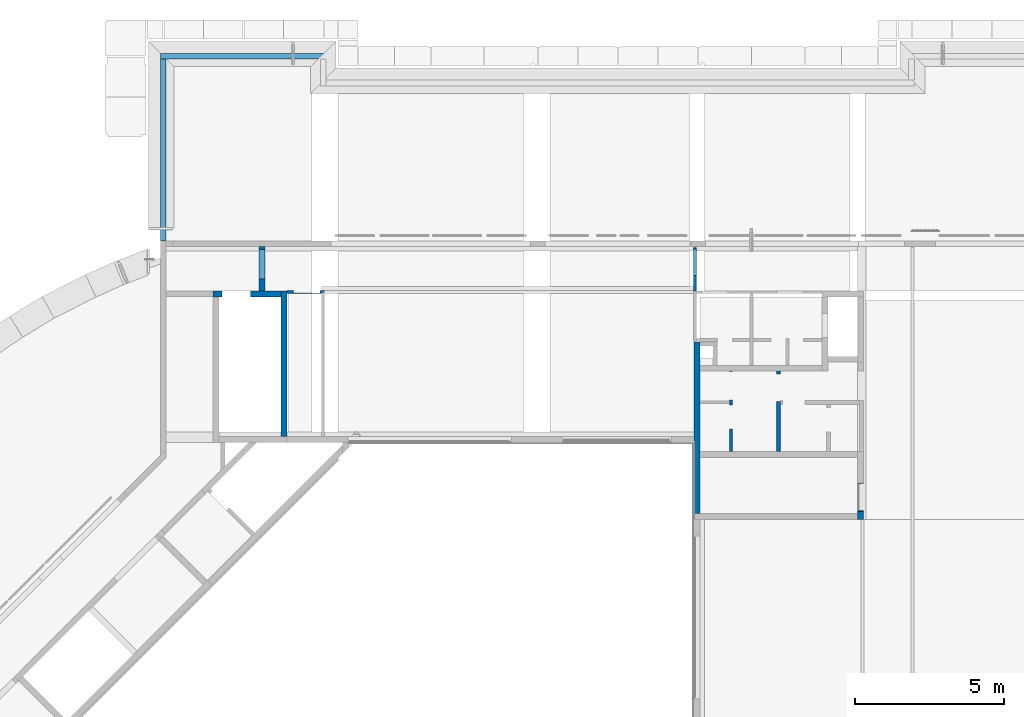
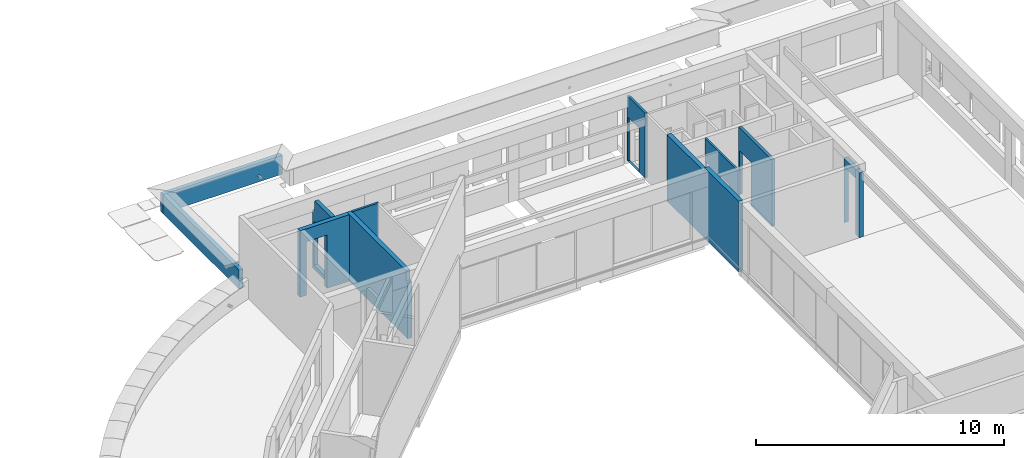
# One storey, part 26 of 38: 12 walls.
"""IFC4X3_ADD2 building model written with IfcOpenShell, lengths in millimetres."""

from ifc_helpers import new_model, si_unit, direction, frame, origin_with_axes, place, context, subcontext, project, spatial, faceted_brep, polygons, source, transform, mapped, type_object, type_shapes, element, save


model = new_model("IFC4X3_ADD2")

# Units and contexts
model_context = context("Model", 3, precision=1e-05, world=origin_with_axes(), true_north=direction((0.0, 1.0)))
body_context = subcontext(model_context, "Body", "Model", "MODEL_VIEW")
ifc_project = project(units=[si_unit("LENGTHUNIT", "METRE", prefix="MILLI"), si_unit("AREAUNIT", "SQUARE_METRE"), si_unit("VOLUMEUNIT", "CUBIC_METRE"), si_unit("PLANEANGLEUNIT", "RADIAN"), si_unit("TIMEUNIT", "SECOND"), si_unit("MASSUNIT", "GRAM")], contexts=[model_context])

# Site, building, storey
site_placement = place(None, origin_with_axes())
site = spatial("IfcSite", under=ifc_project, at=site_placement, Name="Site", CompositionType="ELEMENT")
building_placement = place(site_placement, origin_with_axes())
building = spatial("IfcBuilding", under=site, at=building_placement, Name="IFC Building Story")
storey_placement = place(building_placement, frame((0.0, 0.0, 10800.0), z_axis=(0.0, 0.0, 1.0), x_axis=(1.0, 0.0, 0.0)))
storey = spatial("IfcBuildingStorey", under=building, at=storey_placement, Name="030", Elevation=10800.0)

# Walls
wall_type_1 = type_object("IfcWallType", Name="Basic Wall_BB_10.01.41#01_Gipskartonwand_MS100 _ 25.50.25_ 100 mm137", PredefinedType="NOTDEFINED")
shared_shape_1 = source(origin_with_axes(), body_context, "Body", "Tessellation", [
    polygons([(0.0, 49.9999999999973, -2.16573425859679e-12), (209.999999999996, 49.9999999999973, -2.16573425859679e-12), (209.999999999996, 37.5000000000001, -2.16573425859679e-12), (0.0, 37.5000000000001, -2.16573425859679e-12), (1250.0, 49.9999999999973, 3195.0), (0.0, 49.9999999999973, 3195.0), (0.0, 37.5000000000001, 3195.0), (1250.0, 37.5000000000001, 3195.0), (1250.0, 49.9999999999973, -2.16573425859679e-12), (1250.0, 37.5000000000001, -2.16573425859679e-12), (209.999999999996, 49.9999999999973, 2165.0), (1100.0, 49.9999999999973, 2165.0), (1100.0, 37.5000000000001, 2165.0), (209.999999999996, 37.5000000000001, 2165.0), (1100.0, 49.9999999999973, -2.16573425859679e-12), (1100.0, 37.5000000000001, -2.16573425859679e-12)], [[[1, 2, 3, 4]], [[5, 6, 7, 8]], [[6, 1, 4, 7]], [[9, 5, 8, 10]], [[11, 12, 13, 14]], [[12, 15, 16, 13]], [[2, 11, 14, 3]], [[13, 16, 10]], [[13, 10, 8]], [[8, 7, 14]], [[8, 14, 13]], [[7, 4, 3]], [[7, 3, 14]], [[15, 9, 10, 16]], [[11, 2, 1]], [[11, 1, 6]], [[6, 5, 12]], [[6, 12, 11]], [[5, 9, 15]], [[5, 15, 12]]]),
    polygons([(0.0, 25.000000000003, -2.16573425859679e-12), (0.0, 37.5000000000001, -2.16573425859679e-12), (209.999999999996, 37.5000000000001, -2.16573425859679e-12), (209.999999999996, 25.000000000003, -2.16573425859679e-12), (1237.5, 25.000000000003, 3195.0), (1237.5, 37.5000000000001, 3195.0), (0.0, 37.5000000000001, 3195.0), (0.0, 25.000000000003, 3195.0), (209.999999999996, 25.000000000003, 2165.0), (209.999999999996, 37.5000000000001, 2165.0), (1100.0, 37.5000000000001, 2165.0), (1100.0, 25.000000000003, 2165.0), (1100.0, 37.5000000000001, -2.16573425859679e-12), (1100.0, 25.000000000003, -2.16573425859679e-12), (1237.5, 37.5000000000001, -2.16573425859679e-12), (1237.5, 25.000000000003, -2.16573425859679e-12)], [[[1, 2, 3, 4]], [[5, 6, 7, 8]], [[2, 1, 8, 7]], [[9, 10, 11, 12]], [[13, 14, 12, 11]], [[4, 3, 10, 9]], [[10, 3, 2]], [[10, 2, 7]], [[7, 6, 11]], [[7, 11, 10]], [[6, 15, 13]], [[6, 13, 11]], [[12, 14, 16]], [[12, 16, 5]], [[5, 8, 9]], [[5, 9, 12]], [[8, 1, 4]], [[8, 4, 9]], [[14, 13, 15, 16]], [[16, 15, 6, 5]]]),
    polygons([(0.0, -25.000000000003, -2.16573425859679e-12), (0.0, 25.000000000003, -2.16573425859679e-12), (209.999999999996, 25.000000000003, -2.16573425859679e-12), (209.999999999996, -25.000000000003, -2.16573425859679e-12), (1225.0, -25.000000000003, 3195.0), (1225.0, 25.000000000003, 3195.0), (0.0, 25.000000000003, 3195.0), (0.0, -25.000000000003, 3195.0), (209.999999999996, -25.000000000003, 2165.0), (209.999999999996, 25.000000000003, 2165.0), (1100.0, 25.000000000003, 2165.0), (1100.0, -25.000000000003, 2165.0), (1100.0, 25.000000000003, -2.16573425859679e-12), (1100.0, -25.000000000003, -2.16573425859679e-12), (1225.0, 25.000000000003, -2.16573425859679e-12), (1225.0, -25.000000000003, -2.16573425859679e-12)], [[[1, 2, 3, 4]], [[5, 6, 7, 8]], [[2, 1, 8, 7]], [[9, 10, 11, 12]], [[13, 14, 12, 11]], [[4, 3, 10, 9]], [[10, 3, 2]], [[10, 2, 7]], [[7, 6, 11]], [[7, 11, 10]], [[6, 15, 13]], [[6, 13, 11]], [[12, 14, 16]], [[12, 16, 5]], [[5, 8, 9]], [[5, 9, 12]], [[8, 1, 4]], [[8, 4, 9]], [[14, 13, 15, 16]], [[16, 15, 6, 5]]]),
    polygons([(0.0, -37.5000000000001, -2.16573425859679e-12), (0.0, -25.000000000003, -2.16573425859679e-12), (209.999999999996, -25.000000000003, -2.16573425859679e-12), (209.999999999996, -37.5000000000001, -2.16573425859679e-12), (1175.0, -37.5000000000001, 3195.0), (1175.0, -25.000000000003, 3195.0), (0.0, -25.000000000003, 3195.0), (0.0, -37.5000000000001, 3195.0), (209.999999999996, -37.5000000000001, 2165.0), (209.999999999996, -25.000000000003, 2165.0), (1100.0, -25.000000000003, 2165.0), (1100.0, -37.5000000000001, 2165.0), (1100.0, -25.000000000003, -2.16573425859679e-12), (1100.0, -37.5000000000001, -2.16573425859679e-12), (1175.0, -25.000000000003, -2.16573425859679e-12), (1175.0, -37.5000000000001, -2.16573425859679e-12)], [[[1, 2, 3, 4]], [[5, 6, 7, 8]], [[2, 1, 8, 7]], [[9, 10, 11, 12]], [[13, 14, 12, 11]], [[4, 3, 10, 9]], [[10, 3, 2]], [[10, 2, 7]], [[7, 6, 11]], [[7, 11, 10]], [[11, 6, 15]], [[15, 13, 11]], [[12, 14, 16]], [[16, 5, 12]], [[5, 8, 9]], [[5, 9, 12]], [[8, 1, 4]], [[8, 4, 9]], [[14, 13, 15, 16]], [[16, 15, 6, 5]]]),
    polygons([(209.999999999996, -37.5000000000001, -2.16573425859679e-12), (0.0, -37.5000000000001, -2.16573425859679e-12), (0.0, -37.5000000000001, 3195.0), (1162.5, -37.5000000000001, 3195.0), (1162.5, -37.5000000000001, -2.16573425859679e-12), (1100.0, -37.5000000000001, -2.16573425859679e-12), (1100.0, -37.5000000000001, 2165.0), (209.999999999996, -37.5000000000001, 2165.0), (0.0, -50.000000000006, -2.16573425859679e-12), (1162.5, -50.000000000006, -2.16573425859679e-12), (1162.5, -50.000000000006, 3195.0), (1150.0, -50.000000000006, 3195.0), (0.0, -50.000000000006, 3195.0), (209.999999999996, -39.9999999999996, -2.16573425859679e-12), (1100.0, -39.9999999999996, -2.16573425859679e-12), (209.999999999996, -39.9999999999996, 2165.0), (1100.0, -39.9999999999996, 2165.0)], [[[8, 1, 2]], [[8, 2, 3]], [[3, 4, 7]], [[3, 7, 8]], [[7, 4, 5]], [[5, 6, 7]], [[12, 13, 9]], [[12, 9, 10]], [[10, 11, 12]], [[15, 6, 5]], [[15, 5, 10]], [[10, 14, 15]], [[10, 9, 14]], [[9, 2, 14]], [[2, 1, 14]], [[12, 11, 4]], [[4, 3, 13]], [[4, 13, 12]], [[9, 13, 3, 2]], [[15, 14, 16, 17]], [[17, 16, 8, 7]], [[15, 17, 7, 6]], [[16, 14, 1, 8]], [[11, 10, 5, 4]]]),
])
type_shapes(wall_type_1, [shared_shape_1])
wall_1_placement = place(storey_placement, frame((-26400.0, 43665.0, -5.0), z_axis=(0.0, 0.0, 1.0), x_axis=(1.0, 0.0, 0.0)))
element("IfcWall", 1, at=wall_1_placement, inside=storey, type_object=wall_type_1, Name="Basic Wall:BB_10.01.41#01_Gipskartonwand_MS100 / 25.50.25, 100 mm", ObjectType="Basic Wall:BB_10.01.41#01_Gipskartonwand_MS100 / 25.50.25, 100 mm", PredefinedType="PARTITIONING", context=body_context, shape_type="MappedRepresentation", body=[
    mapped(shared_shape_1, transform((0.0, 0.0, 0.0))),
])
wall_type_2 = type_object("IfcWallType", Name="Basic Wall_BB_10.01.41#01_Gipskartonwand_MS100 _ 25.50.25_ 100 mm149", PredefinedType="NOTDEFINED")
shared_shape_2 = source(origin_with_axes(), body_context, "Body", "Brep", [
    faceted_brep([(0.0, 37.5000000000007, 0.0), (0.0, 37.5000000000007, 3200.0), (0.0, 50.0, 3200.0), (0.0, 50.0, 0.0), (1460.000000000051, 37.5000000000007, 3200.0), (1460.000000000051, 50.0, 3200.0), (1460.000000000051, 37.5000000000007, 0.0), (1460.000000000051, 50.0, 0.0), (508.000000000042, 37.5000000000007, 2170.000000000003), (508.000000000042, 37.5000000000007, 10.0), (508.000000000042, 50.0, 10.0), (508.000000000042, 50.0, 2170.000000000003), (1398.000000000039, 37.5000000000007, 10.0), (1398.000000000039, 50.0, 10.0), (1398.000000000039, 37.5000000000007, 2170.000000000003), (1398.000000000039, 50.0, 2170.000000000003)], [[[0, 1, 2, 3]], [[1, 4, 5, 2]], [[4, 6, 7, 5]], [[6, 0, 3, 7]], [[8, 9, 10, 11]], [[9, 12, 13, 10]], [[12, 14, 15, 13]], [[14, 8, 11, 15]], [[9, 8, 14, 12], [1, 0, 6, 4]], [[15, 11, 10, 13], [7, 3, 2, 5]]], outer=[[True], [True], [True], [True], [True], [True], [True], [True], [False, True], [False, True]]),
    faceted_brep([(0.0, 24.9999999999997, 0.0), (0.0, 24.9999999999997, 3200.0), (0.0, 37.5000000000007, 3200.0), (0.0, 37.5000000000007, 0.0), (1460.000000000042, 25.0000000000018, 3200.0), (1460.000000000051, 37.5000000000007, 3200.0), (1460.000000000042, 25.0000000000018, 0.0), (1460.000000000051, 37.5000000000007, 0.0), (508.0000000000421, 25.0000000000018, 2170.000000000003), (508.00000000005, 25.0000000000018, 10.0), (508.000000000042, 37.5000000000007, 10.0), (508.000000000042, 37.5000000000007, 2170.000000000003), (1398.000000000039, 25.0000000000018, 10.0), (1398.000000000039, 37.5000000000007, 10.0), (1398.000000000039, 25.0000000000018, 2170.000000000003), (1398.000000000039, 37.5000000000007, 2170.000000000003)], [[[0, 1, 2, 3]], [[1, 4, 5, 2]], [[4, 6, 7, 5]], [[6, 0, 3, 7]], [[8, 9, 10, 11]], [[9, 12, 13, 10]], [[12, 14, 15, 13]], [[14, 8, 11, 15]], [[9, 8, 14, 12], [1, 0, 6, 4]], [[15, 11, 10, 13], [7, 3, 2, 5]]], outer=[[True], [True], [True], [True], [True], [True], [True], [True], [False, True], [False, True]]),
    faceted_brep([(0.0, -24.9999999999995, 0.0), (0.0, -24.9999999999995, 3200.0), (0.0, 24.9999999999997, 3200.0), (0.0, 24.9999999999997, 0.0), (1460.000000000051, -25.0000000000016, 3200.0), (1460.000000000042, 25.0000000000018, 3200.0), (1460.000000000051, -25.0000000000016, 0.0), (1460.000000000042, 25.0000000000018, 0.0), (508.0000000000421, -25.0000000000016, 2170.000000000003), (508.00000000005, -25.0000000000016, 10.0), (508.00000000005, 25.0000000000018, 10.0), (508.0000000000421, 25.0000000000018, 2170.000000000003), (1398.000000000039, -25.0000000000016, 10.0), (1398.000000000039, 25.0000000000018, 10.0), (1398.000000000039, -25.0000000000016, 2170.000000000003), (1398.000000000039, 25.0000000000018, 2170.000000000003)], [[[0, 1, 2, 3]], [[1, 4, 5, 2]], [[4, 6, 7, 5]], [[6, 0, 3, 7]], [[8, 9, 10, 11]], [[9, 12, 13, 10]], [[12, 14, 15, 13]], [[14, 8, 11, 15]], [[9, 8, 14, 12], [1, 0, 6, 4]], [[15, 11, 10, 13], [7, 3, 2, 5]]], outer=[[True], [True], [True], [True], [True], [True], [True], [True], [False, True], [False, True]]),
    faceted_brep([(0.0, -37.5000000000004, 0.0), (0.0, -37.5000000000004, 3200.0), (0.0, -24.9999999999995, 3200.0), (0.0, -24.9999999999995, 0.0), (1460.000000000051, -37.5000000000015, 3200.0), (1460.000000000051, -25.0000000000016, 3200.0), (1460.000000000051, -37.5000000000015, 0.0), (1460.000000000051, -25.0000000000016, 0.0), (508.00000000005, -37.5000000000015, 2170.000000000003), (508.00000000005, -37.5000000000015, 10.0), (508.00000000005, -25.0000000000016, 10.0), (508.0000000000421, -25.0000000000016, 2170.000000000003), (1398.000000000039, -37.5000000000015, 10.0), (1398.000000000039, -25.0000000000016, 10.0), (1398.000000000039, -37.5000000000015, 2170.000000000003), (1398.000000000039, -25.0000000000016, 2170.000000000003)], [[[0, 1, 2, 3]], [[1, 4, 5, 2]], [[4, 6, 7, 5]], [[6, 0, 3, 7]], [[8, 9, 10, 11]], [[9, 12, 13, 10]], [[12, 14, 15, 13]], [[14, 8, 11, 15]], [[9, 8, 14, 12], [1, 0, 6, 4]], [[15, 11, 10, 13], [7, 3, 2, 5]]], outer=[[True], [True], [True], [True], [True], [True], [True], [True], [False, True], [False, True]]),
    faceted_brep([(0.0, -50.0, 0.0), (0.0, -50.0, 3200.0), (0.0, -37.5000000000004, 3200.0), (0.0, -37.5000000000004, 0.0), (1460.000000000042, -49.9999999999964, 3200.0), (1460.000000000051, -37.5000000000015, 3200.0), (1460.000000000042, -49.9999999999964, 0.0), (1460.000000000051, -37.5000000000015, 0.0), (508.00000000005, -49.9999999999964, 2170.000000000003), (508.00000000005, -49.9999999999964, 10.0), (508.00000000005, -37.5000000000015, 10.0), (508.00000000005, -37.5000000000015, 2170.000000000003), (1398.000000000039, -49.9999999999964, 10.0), (1398.000000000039, -37.5000000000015, 10.0), (1398.000000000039, -49.9999999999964, 2170.000000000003), (1398.000000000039, -37.5000000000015, 2170.000000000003)], [[[0, 1, 2, 3]], [[1, 4, 5, 2]], [[4, 6, 7, 5]], [[6, 0, 3, 7]], [[8, 9, 10, 11]], [[9, 12, 13, 10]], [[12, 14, 15, 13]], [[14, 8, 11, 15]], [[9, 8, 14, 12], [1, 0, 6, 4]], [[15, 11, 10, 13], [7, 3, 2, 5]]], outer=[[True], [True], [True], [True], [True], [True], [True], [True], [False, True], [False, True]]),
])
type_shapes(wall_type_2, [shared_shape_2])
wall_2_placement = place(storey_placement, frame((-12665.0040658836, 43705.0, -10.0), z_axis=(0.0, 0.0, 1.0), x_axis=(0.0, 1.0, 0.0)))
element("IfcWall", 2, at=wall_2_placement, inside=storey, type_object=wall_type_2, Name="Basic Wall:BB_10.01.41#01_Gipskartonwand_MS100 / 25.50.25, 100 mm", ObjectType="Basic Wall:BB_10.01.41#01_Gipskartonwand_MS100 / 25.50.25, 100 mm", PredefinedType="PARTITIONING", context=body_context, shape_type="MappedRepresentation", body=[
    mapped(shared_shape_2, transform((0.0, 0.0, 0.0))),
])
wall_3_placement = place(storey_placement, frame((0.0, 0.0, -10800.0), z_axis=(0.0, 0.0, 1.0), x_axis=(1.0, 0.0, 0.0)))
element("IfcWall", 3, at=wall_3_placement, inside=storey, Name="Basic Wall:BB_XX_Wand uit beton, 200 mm", ObjectType="Basic Wall:BB_XX_Wand uit beton, 200 mm", PredefinedType="SOLIDWALL", context=body_context, shape_type="Tessellation", body=[
    polygons([(-12500.0040658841, 36200.0, 10720.0), (-12500.0040658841, 38099.99999999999, 10720.0), (-12500.0040658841, 38299.99999999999, 10720.0), (-12500.0040658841, 39909.99999999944, 10720.0), (-12500.0040658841, 39999.99999999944, 10720.0), (-12500.0040658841, 41979.99999999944, 10720.0), (-12500.0040658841, 41979.99999999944, 13990.0), (-12500.0040658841, 39999.99999999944, 13990.0), (-12500.0040658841, 39909.99999999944, 13990.0), (-12500.0040658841, 38939.99593411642, 13990.0), (-12500.0040658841, 38939.99593411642, 14200.0), (-12500.0040658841, 38299.99999999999, 14200.0), (-12500.0040658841, 38099.99999999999, 14200.0), (-12500.0040658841, 36200.0, 14200.0), (-12700.0040658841, 36200.0, 10720.0), (-12700.0040658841, 36200.0, 14200.0), (-12700.0040658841, 38939.99593411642, 14200.0), (-12700.0040658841, 38939.99593411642, 13990.0), (-12700.0040658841, 41979.99999999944, 13990.0), (-12700.0040658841, 41979.99999999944, 10720.0)], [[[5, 6, 7]], [[5, 7, 8]], [[8, 9, 4]], [[8, 4, 5]], [[10, 11, 12]], [[10, 12, 3]], [[3, 4, 9]], [[3, 9, 10]], [[12, 13, 2]], [[12, 2, 3]], [[13, 14, 1]], [[13, 1, 2]], [[18, 19, 20]], [[18, 20, 15]], [[15, 16, 18]], [[16, 17, 18]], [[1, 14, 16, 15]], [[2, 1, 15]], [[15, 3, 2]], [[15, 4, 3]], [[15, 20, 4]], [[20, 5, 4]], [[20, 6, 5]], [[7, 6, 20, 19]], [[8, 7, 19]], [[8, 19, 18]], [[18, 9, 8]], [[18, 10, 9]], [[11, 10, 18, 17]], [[12, 11, 17]], [[17, 13, 12]], [[17, 16, 14]], [[17, 14, 13]]]),
])
wall_4_placement = place(storey_placement, frame((0.0, 0.0, -10800.0), z_axis=(0.0, 0.0, 1.0), x_axis=(1.0, 0.0, 0.0)))
element("IfcWall", 4, at=wall_4_placement, inside=storey, Name="Basic Wall:BB_XX_Wand uit metselwerk, 200 mm", ObjectType="Basic Wall:BB_XX_Wand uit metselwerk, 200 mm", PredefinedType="SOLIDWALL", context=body_context, shape_type="Tessellation", body=[
    polygons([(-7000.0, 37235.00015858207, 10600.0), (-7000.0, 37235.00015858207, 13790.00000000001), (-7000.0, 36275.000158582, 13790.00000000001), (-7000.0, 36275.000158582, 10600.0), (-7000.0, 36305.00000000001, 10600.0), (-7000.0, 36305.00000000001, 13350.00000000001), (-7000.000000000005, 37215.00000000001, 13350.00000000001), (-7000.0, 37215.00000000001, 10600.0), (-7200.0, 37235.00015858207, 13790.00000000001), (-7200.0, 37235.00015858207, 10600.0), (-7200.0, 37215.00000000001, 10600.0), (-7200.000000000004, 37215.00000000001, 13350.00000000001), (-7200.0, 36305.00000000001, 13350.00000000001), (-7200.0, 36305.00000000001, 10600.0), (-7200.0, 36275.000158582, 10600.0), (-7200.0, 36275.000158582, 13790.00000000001)], [[[7, 8, 1]], [[1, 2, 7]], [[2, 3, 6]], [[2, 6, 7]], [[6, 3, 4]], [[4, 5, 6]], [[13, 14, 15]], [[15, 16, 13]], [[16, 9, 12]], [[16, 12, 13]], [[12, 9, 10]], [[10, 11, 12]], [[4, 15, 14, 5]], [[2, 1, 10, 9]], [[3, 2, 9, 16]], [[4, 3, 16, 15]], [[6, 13, 12, 7]], [[13, 6, 5, 14]], [[7, 12, 11, 8]], [[10, 1, 8, 11]]]),
])
wall_5_placement = place(storey_placement, frame((0.0, 0.0, -10800.0), z_axis=(0.0, 0.0, 1.0), x_axis=(1.0, 0.0, 0.0)))
element("IfcWall", 5, at=wall_5_placement, inside=storey, Name="Basic Wall:BB_XX_Wand uit beton, 200 mm", ObjectType="Basic Wall:BB_XX_Wand uit beton, 200 mm", PredefinedType="SOLIDWALL", context=body_context, shape_type="Tessellation", body=[
    polygons([(-7000.0, 35999.99999999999, 10600.0), (-7000.0, 36275.00015858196, 10600.0), (-7000.0, 36275.00015858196, 13790.00000000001), (-7000.0, 35999.99999999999, 13790.00000000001), (-7200.0, 36275.00015858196, 10600.0), (-7200.0, 36200.0, 10600.0), (-7200.0, 35999.99999999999, 10600.0), (-7200.0, 35999.99999999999, 13790.00000000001), (-7200.0, 36275.00015858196, 13790.00000000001)], [[[1, 2, 3, 4]], [[6, 7, 8]], [[6, 8, 9]], [[9, 5, 6]], [[6, 5, 2]], [[2, 1, 7]], [[2, 7, 6]], [[2, 5, 9, 3]], [[4, 3, 9, 8]], [[7, 1, 4, 8]]]),
])
wall_6_placement = place(storey_placement, frame((0.0, 0.0, -10800.0), z_axis=(0.0, 0.0, 1.0), x_axis=(1.0, 0.0, 0.0)))
element("IfcWall", 6, at=wall_6_placement, inside=storey, Name="Basic Wall:BB_XX_Wand uit beton, 200 mm", ObjectType="Basic Wall:BB_XX_Wand uit beton, 200 mm", PredefinedType="SOLIDWALL", context=body_context, shape_type="Tessellation", body=[
    polygons([(-26600.0, 43700.0, 10720.0), (-26600.0, 43500.0, 10720.0), (-26600.00000000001, 38799.99593411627, 10720.0), (-26600.00000000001, 38799.99593411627, 13479.99999999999), (-26600.00000000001, 38944.99593411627, 13479.99999999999), (-26600.00000000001, 38944.99593411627, 13990.0), (-26600.0, 43500.0, 13990.0), (-26600.0, 43700.0, 13990.0), (-26400.0, 38799.99593411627, 10720.0), (-26400.0, 43700.0, 10720.0), (-26400.0, 43700.0, 13990.0), (-26400.0, 38944.99593411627, 13990.0), (-26400.0, 38944.99593411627, 13479.99999999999), (-26400.0, 38799.99593411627, 13479.99999999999)], [[[5, 6, 7]], [[7, 2, 3]], [[7, 3, 5]], [[3, 4, 5]], [[7, 8, 1]], [[7, 1, 2]], [[13, 14, 9]], [[13, 9, 10]], [[13, 10, 11]], [[11, 12, 13]], [[5, 13, 12, 6]], [[13, 5, 4, 14]], [[2, 1, 10]], [[10, 9, 3]], [[10, 3, 2]], [[3, 9, 14, 4]], [[7, 6, 12]], [[7, 12, 11]], [[11, 8, 7]], [[1, 8, 11, 10]]]),
])
wall_7_placement = place(storey_placement, frame((0.0, 0.0, -10800.0), z_axis=(0.0, 0.0, 1.0), x_axis=(1.0, 0.0, 0.0)))
element("IfcWall", 7, at=wall_7_placement, inside=storey, Name="Basic Wall:BB_XX_Wand uit beton, 190 mm", ObjectType="Basic Wall:BB_XX_Wand uit beton, 190 mm", PredefinedType="SOLIDWALL", context=body_context, shape_type="Tessellation", body=[
    polygons([(-30660.0, 51505.0, 10600.0), (-30660.0, 45380.0000000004, 10600.0), (-30660.0, 45380.0000000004, 11541.0), (-30660.0, 45758.00000000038, 11541.0), (-30660.0, 45758.00000000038, 11537.99999999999), (-30660.0, 45830.00000000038, 11537.99999999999), (-30660.0, 45830.00000000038, 11541.0), (-30660.0, 51505.0, 11541.0), (-30660.0, 51505.0, 11540.0), (-30470.0, 45380.0000000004, 10600.0), (-30470.0, 51505.0, 10600.0), (-30470.0, 51505.0, 11541.0), (-30470.0, 45830.00000000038, 11541.0), (-30470.0, 45830.00000000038, 11537.99999999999), (-30470.0, 45758.00000000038, 11537.99999999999), (-30470.0, 45758.00000000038, 11541.0), (-30470.0, 45380.0000000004, 11541.0)], [[[6, 7, 8]], [[6, 8, 9]], [[6, 9, 1]], [[6, 1, 2]], [[2, 5, 6]], [[2, 3, 5]], [[3, 4, 5]], [[15, 16, 17]], [[15, 17, 10]], [[10, 14, 15]], [[10, 11, 12]], [[10, 12, 14]], [[12, 13, 14]], [[2, 1, 11, 10]], [[3, 2, 10, 17]], [[3, 17, 16, 4]], [[9, 8, 12]], [[12, 11, 1]], [[12, 1, 9]], [[15, 5, 4, 16]], [[5, 15, 14, 6]], [[6, 14, 13, 7]], [[12, 8, 7, 13]]]),
])
wall_8_placement = place(storey_placement, frame((0.0, 0.0, -10800.0), z_axis=(0.0, 0.0, 1.0), x_axis=(1.0, 0.0, 0.0)))
element("IfcWall", 8, at=wall_8_placement, inside=storey, Name="Basic Wall:BB_XX_Wand uit beton, 190 mm", ObjectType="Basic Wall:BB_XX_Wand uit beton, 190 mm", PredefinedType="SOLIDWALL", context=body_context, shape_type="Tessellation", body=[
    polygons([(-30660.0, 51504.99999999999, 11540.0), (-30660.0, 51504.99999999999, 10600.0), (-30470.0, 51504.99999999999, 10600.0), (-25100.13019323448, 51504.99999999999, 10600.0), (-25100.13019323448, 51504.99999999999, 11540.0), (-26251.42589328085, 51504.99999999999, 10930.40723148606), (-26245.2641125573, 51504.99999999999, 10942.15771057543), (-26236.47174613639, 51504.99999999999, 10952.09085196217), (-26225.55977439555, 51504.99999999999, 10959.62937757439), (-26213.16236146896, 51504.99999999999, 10964.33517570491), (-26199.99999993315, 51504.99999999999, 10965.93476247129), (-26186.83763839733, 51504.99999999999, 10964.33517570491), (-26174.44022547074, 51504.99999999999, 10959.62937757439), (-26163.5282537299, 51504.99999999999, 10952.09085196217), (-26154.735887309, 51504.99999999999, 10942.15771057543), (-26148.57410658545, 51504.99999999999, 10930.40723148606), (-26145.40101185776, 51504.99999999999, 10917.52230982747), (-26145.40101185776, 51504.99999999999, 10904.25177041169), (-26148.57410658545, 51504.99999999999, 10891.3668487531), (-26154.735887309, 51504.99999999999, 10879.61636966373), (-26163.5282537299, 51504.99999999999, 10869.68322827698), (-26174.44022547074, 51504.99999999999, 10862.14470266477), (-26186.83763839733, 51504.99999999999, 10857.43890453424), (-26199.99999993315, 51504.99999999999, 10855.83931776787), (-26213.16236146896, 51504.99999999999, 10857.43890453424), (-26225.55977439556, 51504.99999999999, 10862.14470266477), (-26236.47174613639, 51504.99999999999, 10869.68322827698), (-26245.2641125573, 51504.99999999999, 10879.61636966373), (-26251.42589328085, 51504.99999999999, 10891.3668487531), (-26254.59898800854, 51504.99999999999, 10904.25177041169), (-26254.59898800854, 51504.99999999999, 10917.52230982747), (-25100.13019323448, 51694.99999999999, 10600.0), (-30660.0, 51694.99999999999, 10600.0), (-30660.0, 51694.99999999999, 11540.0), (-25100.13019323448, 51694.99999999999, 11540.0), (-26148.57410658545, 51694.99999999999, 10883.45018208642), (-26145.40101185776, 51694.99999999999, 10896.335103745), (-26145.40101185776, 51694.99999999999, 10909.60564316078), (-26148.57410658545, 51694.99999999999, 10922.49056481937), (-26154.735887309, 51694.99999999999, 10934.24104390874), (-26163.5282537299, 51694.99999999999, 10944.17418529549), (-26174.44022547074, 51694.99999999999, 10951.7127109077), (-26186.83763839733, 51694.99999999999, 10956.41850903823), (-26199.99999993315, 51694.99999999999, 10958.0180958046), (-26213.16236146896, 51694.99999999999, 10956.41850903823), (-26225.55977439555, 51694.99999999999, 10951.7127109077), (-26236.47174613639, 51694.99999999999, 10944.17418529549), (-26245.2641125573, 51694.99999999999, 10934.24104390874), (-26251.42589328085, 51694.99999999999, 10922.49056481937), (-26254.59898800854, 51694.99999999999, 10909.60564316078), (-26254.59898800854, 51694.99999999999, 10896.335103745), (-26251.42589328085, 51694.99999999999, 10883.45018208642), (-26245.2641125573, 51694.99999999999, 10871.69970299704), (-26236.47174613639, 51694.99999999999, 10861.7665616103), (-26225.55977439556, 51694.99999999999, 10854.22803599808), (-26213.16236146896, 51694.99999999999, 10849.52223786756), (-26199.99999993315, 51694.99999999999, 10847.92265110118), (-26186.83763839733, 51694.99999999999, 10849.52223786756), (-26174.44022547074, 51694.99999999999, 10854.22803599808), (-26163.5282537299, 51694.99999999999, 10861.7665616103), (-26154.735887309, 51694.99999999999, 10871.69970299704)], [[[31, 6, 1]], [[31, 1, 3]], [[3, 30, 31]], [[3, 29, 30]], [[3, 28, 29]], [[3, 27, 28]], [[3, 26, 27]], [[3, 25, 26]], [[3, 4, 25]], [[4, 24, 25]], [[4, 23, 24]], [[4, 22, 23]], [[4, 21, 22]], [[4, 20, 21]], [[4, 19, 20]], [[4, 18, 19]], [[4, 17, 18]], [[4, 16, 17]], [[4, 5, 15]], [[4, 15, 16]], [[5, 14, 15]], [[5, 13, 14]], [[5, 12, 13]], [[5, 11, 12]], [[5, 10, 11]], [[5, 9, 10]], [[9, 5, 1]], [[1, 8, 9]], [[1, 7, 8]], [[1, 6, 7]], [[1, 2, 3]], [[61, 36, 32]], [[32, 60, 61]], [[32, 59, 60]], [[32, 58, 59]], [[32, 57, 58]], [[32, 56, 57]], [[56, 32, 33]], [[33, 55, 56]], [[33, 54, 55]], [[33, 53, 54]], [[33, 52, 53]], [[33, 51, 52]], [[33, 50, 51]], [[33, 34, 49]], [[33, 49, 50]], [[34, 48, 49]], [[34, 47, 48]], [[34, 46, 47]], [[34, 35, 46]], [[35, 45, 46]], [[35, 44, 45]], [[35, 43, 44]], [[35, 42, 43]], [[35, 41, 42]], [[35, 40, 41]], [[35, 32, 39]], [[35, 39, 40]], [[32, 38, 39]], [[32, 37, 38]], [[32, 36, 37]], [[3, 2, 33]], [[33, 32, 4]], [[33, 4, 3]], [[5, 4, 32, 35]], [[31, 30, 51, 50]], [[1, 5, 35, 34]], [[34, 33, 2, 1]], [[18, 17, 38, 37]], [[9, 46, 45, 10]], [[10, 45, 44, 11]], [[31, 50, 49, 6]], [[7, 48, 47, 8]], [[48, 7, 6, 49]], [[8, 47, 46, 9]], [[51, 30, 29, 52]], [[52, 29, 28, 53]], [[25, 56, 55, 26]], [[55, 54, 27, 26]], [[53, 28, 27, 54]], [[56, 25, 24, 57]], [[58, 57, 24, 23]], [[58, 23, 22, 59]], [[61, 60, 21, 20]], [[20, 19, 36, 61]], [[59, 22, 21, 60]], [[37, 36, 19, 18]], [[16, 15, 40, 39]], [[17, 16, 39, 38]], [[14, 13, 42, 41]], [[12, 11, 44, 43]], [[13, 12, 43, 42]], [[15, 14, 41, 40]]]),
])
wall_9_placement = place(storey_placement, frame((0.0, 0.0, -10800.0), z_axis=(0.0, 0.0, 1.0), x_axis=(1.0, 0.0, 0.0)))
element("IfcWall", 9, at=wall_9_placement, inside=storey, Name="Basic Wall:BB_XX_Wand uit metselwerk, 90 mm", ObjectType="Basic Wall:BB_XX_Wand uit metselwerk, 90 mm", PredefinedType="SOLIDWALL", context=body_context, shape_type="Tessellation", body=[
    polygons([(-11410.004065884, 40999.99999999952, 10720.0), (-11410.004065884, 40999.99999999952, 13990.0), (-11410.004065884, 38300.0, 13990.0), (-11410.004065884, 38300.0, 10720.0), (-11410.004065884, 39044.99999999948, 10720.0), (-11410.004065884, 39044.99999999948, 12870.0), (-11410.004065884, 39864.99999999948, 12870.0), (-11410.004065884, 39864.99999999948, 10720.0), (-11410.004065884, 40024.99999999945, 10720.0), (-11410.004065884, 40024.99999999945, 12860.0), (-11410.004065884, 40986.99999999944, 12860.0), (-11410.004065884, 40986.99999999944, 10720.0), (-11500.004065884, 40999.99999999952, 13990.0), (-11500.004065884, 40999.99999999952, 10720.0), (-11500.004065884, 40986.99999999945, 10720.0), (-11500.004065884, 40986.99999999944, 12860.0), (-11500.004065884, 40024.99999999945, 12860.0), (-11500.004065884, 40024.99999999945, 10720.0), (-11500.004065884, 39999.99999999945, 10720.0), (-11500.004065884, 39909.99999999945, 10720.0), (-11500.004065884, 39864.99999999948, 10720.0), (-11500.004065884, 39864.99999999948, 12870.0), (-11500.004065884, 39044.99999999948, 12870.0), (-11500.004065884, 39044.99999999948, 10720.0), (-11500.004065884, 38300.0, 10720.0), (-11500.004065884, 38300.0, 13990.0), (-11500.004065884, 39909.99999999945, 13990.0), (-11500.004065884, 39999.99999999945, 13990.0)], [[[11, 12, 1]], [[1, 2, 11]], [[2, 10, 11]], [[2, 7, 10]], [[7, 8, 9]], [[7, 9, 10]], [[2, 3, 6]], [[2, 6, 7]], [[3, 4, 5]], [[3, 5, 6]], [[23, 24, 25]], [[23, 25, 26]], [[26, 27, 22]], [[26, 22, 23]], [[27, 17, 22]], [[17, 20, 21]], [[17, 21, 22]], [[17, 19, 20]], [[17, 18, 19]], [[28, 13, 16]], [[28, 16, 17]], [[17, 27, 28]], [[16, 13, 14]], [[14, 15, 16]], [[4, 25, 24, 5]], [[2, 1, 14, 13]], [[27, 26, 3]], [[3, 28, 27]], [[3, 2, 28]], [[2, 13, 28]], [[4, 3, 26, 25]], [[17, 10, 9, 18]], [[10, 17, 16, 11]], [[11, 16, 15, 12]], [[7, 22, 21, 8]], [[23, 6, 5, 24]], [[22, 7, 6, 23]], [[19, 18, 9]], [[9, 8, 20]], [[9, 20, 19]], [[8, 21, 20]], [[14, 1, 12, 15]]]),
])
wall_10_placement = place(storey_placement, frame((0.0, 0.0, -10800.0), z_axis=(0.0, 0.0, 1.0), x_axis=(1.0, 0.0, 0.0)))
element("IfcWall", 10, at=wall_10_placement, inside=storey, Name="Basic Wall:BB_XX_Wand uit metselwerk, 140 mm", ObjectType="Basic Wall:BB_XX_Wand uit metselwerk, 140 mm", PredefinedType="SOLIDWALL", context=body_context, shape_type="Tessellation", body=[
    polygons([(-9931.044065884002, 38300.00000000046, 10720.0), (-9931.044065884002, 38300.00000000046, 13990.0), (-9931.044065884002, 41000.0, 13990.0), (-9931.044065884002, 41000.0, 10720.0), (-9931.044065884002, 40904.99999999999, 10720.0), (-9931.044065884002, 40904.99999999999, 12870.0), (-9931.044065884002, 39984.99999999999, 12870.0), (-9931.044065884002, 39984.99999999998, 10720.0), (-9791.044065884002, 38300.00000000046, 13990.0), (-9791.044065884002, 38300.00000000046, 10720.0), (-9791.044065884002, 39984.99999999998, 10720.0), (-9791.044065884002, 39984.99999999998, 12870.0), (-9791.044065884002, 40904.99999999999, 12870.0), (-9791.044065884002, 40904.99999999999, 10720.0), (-9791.044065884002, 41000.0, 10720.0), (-9791.044065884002, 41000.0, 13990.0)], [[[7, 8, 1]], [[7, 1, 2]], [[2, 3, 7]], [[3, 6, 7]], [[6, 3, 4]], [[4, 5, 6]], [[13, 14, 15]], [[15, 16, 13]], [[16, 12, 13]], [[12, 16, 9]], [[9, 10, 11]], [[9, 11, 12]], [[4, 15, 14, 5]], [[2, 1, 10, 9]], [[3, 2, 9, 16]], [[7, 12, 11, 8]], [[13, 6, 5, 14]], [[12, 7, 6, 13]], [[4, 3, 16, 15]], [[10, 1, 8, 11]]]),
])
wall_11_placement = place(storey_placement, frame((0.0, 0.0, -10800.0), z_axis=(0.0, 0.0, 1.0), x_axis=(1.0, 0.0, 0.0)))
element("IfcWall", 11, at=wall_11_placement, inside=storey, Name="Basic Wall:BB_XX_Wand uit beton, 200 mm", ObjectType="Basic Wall:BB_XX_Wand uit beton, 200 mm", PredefinedType="SOLIDWALL", context=body_context, shape_type="Tessellation", body=[
    polygons([(-28900.0, 43500.00000000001, 10720.0), (-28700.0, 43500.00000000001, 10720.0), (-28600.00000000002, 43500.00000000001, 10720.0), (-28600.00000000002, 43500.00000000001, 13350.0), (-27640.00000000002, 43500.00000000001, 13350.0), (-27640.00000000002, 43500.00000000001, 10720.0), (-26600.00000000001, 43500.00000000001, 10720.0), (-26600.00000000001, 43500.00000000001, 13990.0), (-28700.0, 43500.00000000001, 13990.0), (-28900.0, 43500.00000000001, 13990.0), (-28900.0, 43700.0, 10720.0), (-28900.0, 43700.0, 13990.0), (-26600.00000000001, 43700.0, 13990.0), (-26600.00000000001, 43700.0, 10720.0), (-27640.00000000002, 43700.0, 10720.0), (-27640.00000000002, 43700.0, 13350.0), (-28600.00000000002, 43700.0, 13350.0), (-28600.00000000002, 43700.0, 10720.0)], [[[5, 6, 7]], [[5, 7, 8]], [[8, 9, 4]], [[8, 4, 5]], [[9, 2, 3]], [[9, 3, 4]], [[9, 10, 1]], [[9, 1, 2]], [[17, 18, 11]], [[17, 11, 12]], [[12, 13, 16]], [[12, 16, 17]], [[13, 14, 15]], [[13, 15, 16]], [[2, 1, 11]], [[2, 11, 18]], [[18, 3, 2]], [[9, 8, 13]], [[9, 13, 12]], [[12, 10, 9]], [[4, 3, 18, 17]], [[5, 4, 17, 16]], [[6, 5, 16, 15]], [[7, 6, 15, 14]], [[8, 7, 14, 13]], [[1, 10, 12, 11]]]),
])
wall_12_placement = place(storey_placement, frame((0.0, 0.0, -10800.0), z_axis=(0.0, 0.0, 1.0), x_axis=(1.0, 0.0, 0.0)))
element("IfcWall", 12, at=wall_12_placement, inside=storey, Name="Basic Wall:BB_03.09.24#06_Wand uit metselwerk_EI60_43dB, 190 mm", ObjectType="Basic Wall:BB_03.09.24#06_Wand uit metselwerk_EI60_43dB, 190 mm", PredefinedType="SOLIDWALL", context=body_context, shape_type="Tessellation", body=[
    polygons([(-27150.0, 43700.0, 10600.0), (-27150.0, 45189.99999999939, 10600.0), (-27150.0, 45189.99999999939, 10800.0), (-27150.0, 45189.99999999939, 13479.99999999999), (-27150.0, 45164.99999999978, 13480.0), (-27150.0, 45039.99999999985, 13479.99999999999), (-27150.0, 45039.99999999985, 13990.0), (-27150.0, 43700.0, 13990.0), (-27150.0, 44099.99999999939, 12960.00000000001), (-27150.0, 45089.99999999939, 12960.00000000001), (-27150.0, 45089.99999999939, 10795.00000000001), (-27150.0, 44099.99999999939, 10795.00000000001), (-27340.0, 45189.99999999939, 10600.0), (-27340.0, 43700.0, 10600.0), (-27340.0, 43700.0, 13990.0), (-27340.0, 45039.99999999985, 13990.0), (-27340.0, 45039.99999999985, 13479.99999999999), (-27340.0, 45189.99999999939, 13479.99999999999), (-27340.0, 45089.99999999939, 12960.00000000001), (-27340.0, 44099.99999999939, 12960.00000000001), (-27340.0, 44099.99999999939, 10795.00000000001), (-27340.0, 45089.99999999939, 10795.00000000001)], [[[6, 7, 8]], [[6, 8, 9]], [[9, 10, 6]], [[10, 11, 3]], [[10, 3, 5]], [[5, 6, 10]], [[3, 4, 5]], [[12, 9, 8]], [[12, 8, 1]], [[1, 2, 11]], [[1, 11, 12]], [[2, 3, 11]], [[17, 18, 19]], [[22, 19, 18]], [[22, 18, 13]], [[13, 14, 21]], [[13, 21, 22]], [[14, 15, 20]], [[14, 20, 21]], [[17, 19, 20]], [[20, 15, 16]], [[20, 16, 17]], [[2, 1, 14, 13]], [[3, 2, 13]], [[13, 18, 4]], [[13, 4, 3]], [[8, 7, 16, 15]], [[1, 8, 15, 14]], [[5, 4, 18]], [[18, 17, 6]], [[18, 6, 5]], [[7, 6, 17, 16]], [[9, 20, 19, 10]], [[10, 19, 22, 11]], [[11, 22, 21, 12]], [[20, 9, 12, 21]]]),
])

save(model, "model.ifc")
